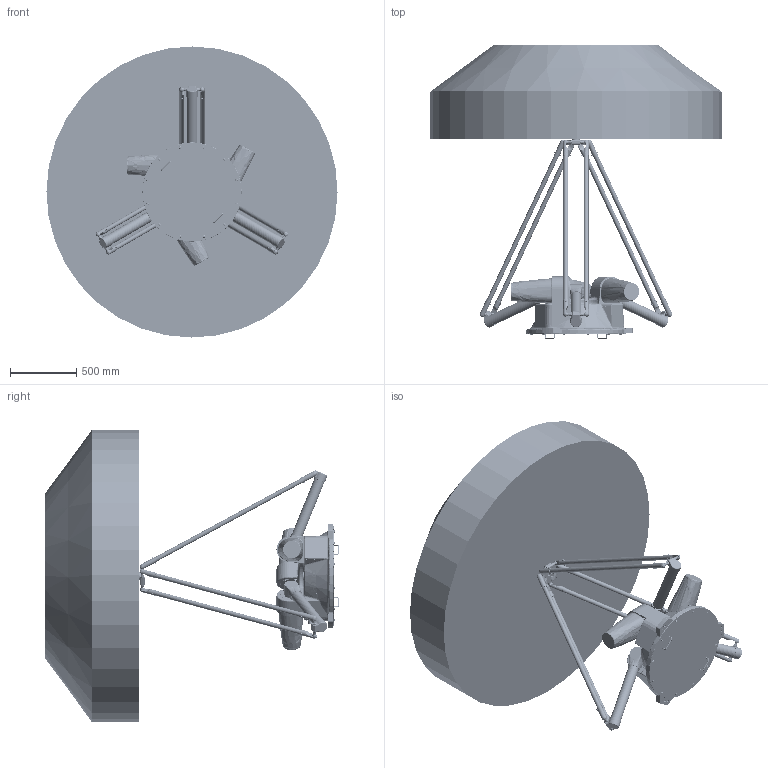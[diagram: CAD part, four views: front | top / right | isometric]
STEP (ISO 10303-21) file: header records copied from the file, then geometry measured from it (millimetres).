
FILE_DESCRIPTION (( 'STEP AP214' ), '1' );
FILE_NAME ('AP25X-2200-1543-T0-V3.0.0.STEP', '2024-12-18T03:21:41', ( '' ), ( '' ), 'SwSTEP 2.0', 'SolidWorks 2017', '' );
FILE_SCHEMA (( 'AUTOMOTIVE_DESIGN' ));
Length unit declared in the file: millimetre
Products named in the file (18): AP25X-2200-1543-T2-V1.0.0; AP25X-2200-1544-T3-V2.0.0; AP25X-2200-1543-T5-V2.0.0; AP25X-2200-1543-T0-V3.0.0; AP25X-2200-1543-T4-V1.0.0; AP15X-2200-1543-T1-V1.0.1
Assembly tree (12 placements, depth 2):
  AP25X-2200-1543-T2-V1.0.0
  AP25X-2200-1544-T3-V2.0.0
  AP25X-2200-1544-T3-V2.0.0
  AP25X-2200-1543-T5-V2.0.0
  AP25X-2200-1543-T2-V1.0.0
Bounding box: 2199.97 x 2219 x 2199.97 mm (x, y, z)
Volume: 2221501126 mm3; surface area: 16825471.7 mm2
Topology: 59 solids, 243 shells, 5207 faces, 13655 edges, 8742 vertices
Faces by surface type: bspline 2159, plane 1373, cylinder 1028, cone 451, torus 165, sphere 31
Full cylindrical faces by diameter (mm): 2.5 x3, 3 x3, 3.3 x22, 3.4 x3, 4.2 x27, 4.8 x1, 5 x82, 5.5 x4, 6 x1, 6.647 x36, 6.72 x3, 6.8 x20, 7 x9, 8 x54, 9 x6, 10 x10, 11 x8, 11.7 x7, 12 x24, 12.1 x1, 13 x6, 14 x30, 17 x1, 17.5 x1, 18 x3, 18.5 x3, 20 x6, 20.5 x12, 23.5 x1, 25 x3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
Entity records: 293323 total; most frequent: CARTESIAN_POINT 163170, ORIENTED_EDGE 19457, DIRECTION 12082, EDGE_CURVE 10232, VERTEX_POINT 7000, EDGE_LOOP 5083, B_SPLINE_CURVE_WITH_KNOTS 4544, FACE_OUTER_BOUND 4515
